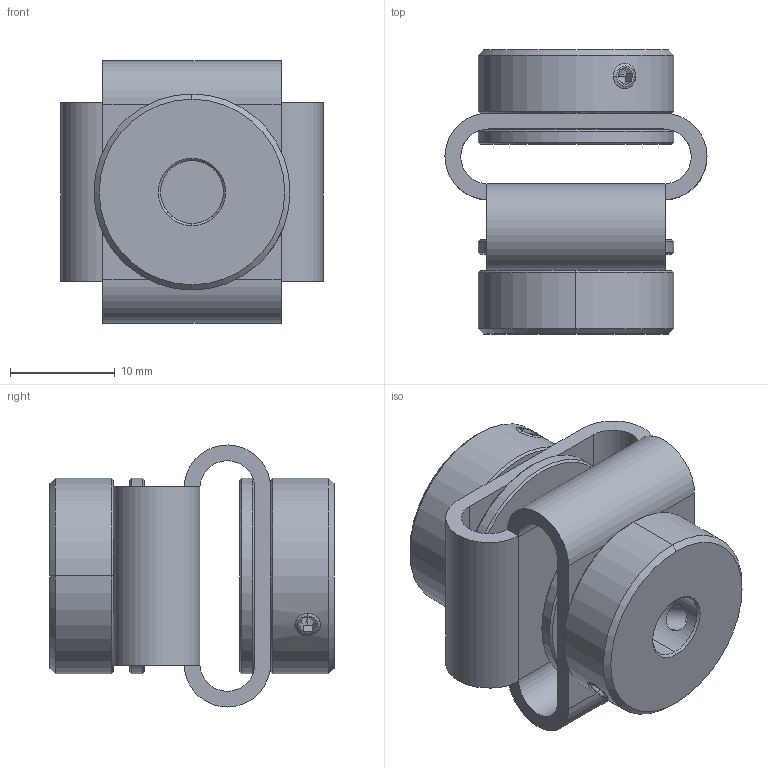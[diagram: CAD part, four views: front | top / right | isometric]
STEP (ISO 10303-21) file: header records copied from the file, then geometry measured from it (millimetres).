
FILE_DESCRIPTION (( 'STEP AP214' ), '1' );
FILE_NAME ('274957_8.0000.1J01.0606_Doppelschlaufenkupplung~0.STEP', '2018-03-01T06:04:42', ( '' ), ( '' ), 'SwSTEP 2.0', 'SolidWorks 2017', '' );
FILE_SCHEMA (( 'AUTOMOTIVE_DESIGN' ));
Length unit declared in the file: millimetre
Products named in the file (1): 274957_8.0000.1J01.0606_Doppelschlaufenkupplung~0
Bounding box: 25 x 27.1 x 25 mm (x, y, z)
Volume: 5824.2 mm3; surface area: 5348.9 mm2
Topology: 1 solids, 1 shells, 188 faces, 430 edges, 242 vertices
Faces by surface type: plane 84, cone 56, cylinder 48
Entity records: 7492 total; most frequent: CARTESIAN_POINT 1169, DIRECTION 932, ORIENTED_EDGE 828, EDGE_CURVE 414, AXIS2_PLACEMENT_3D 357, VERTEX_POINT 242, EDGE_LOOP 218, LINE 218
